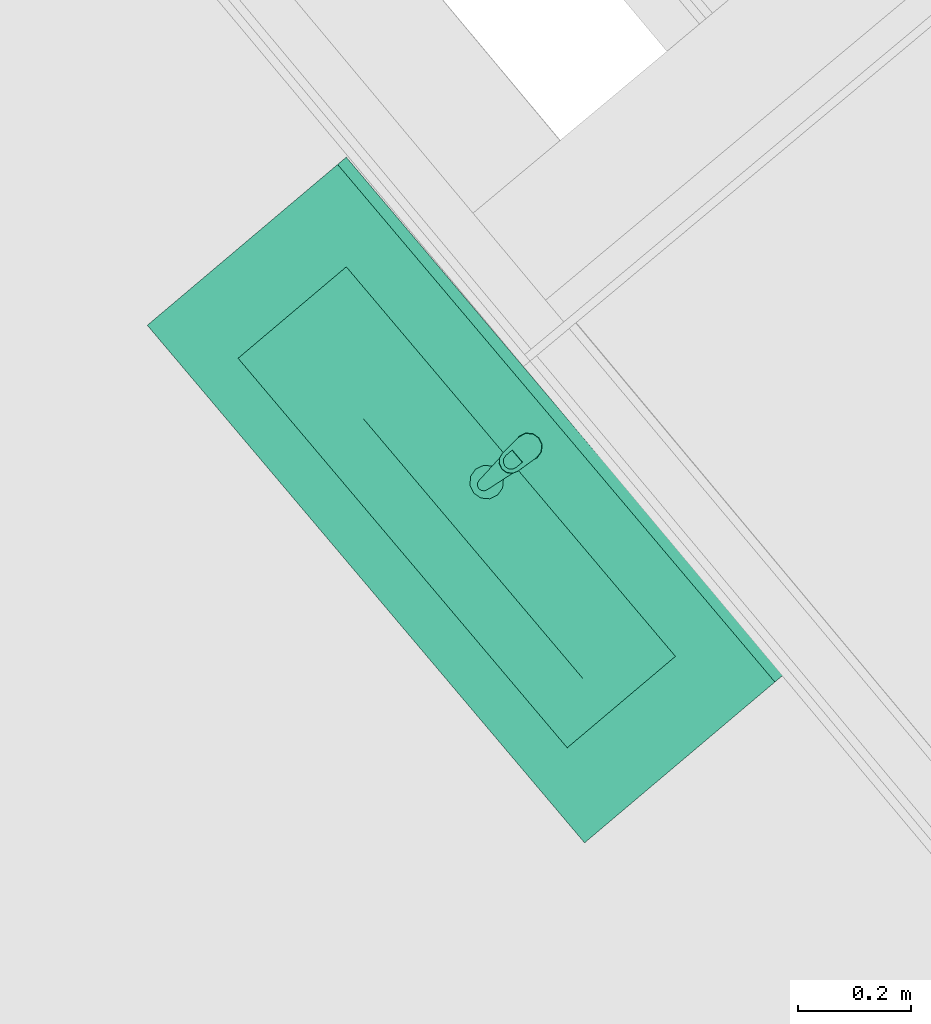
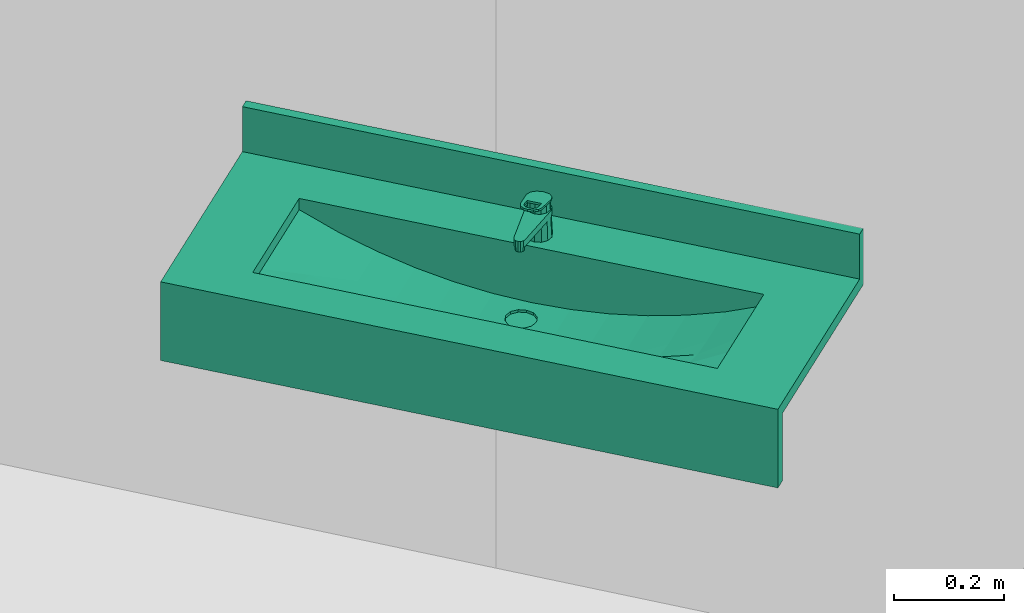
# One storey, part 61 of 67: 1 sanitary terminal.
"""IFC4 building model written with IfcOpenShell, lengths in metres."""

from ifc_helpers import new_model, entity, si_unit, converted_unit, derived_unit, direction, frame, origin_with_axes, place, context, subcontext, project, spatial, polygons, source, transform, mapped, type_object, element, save


model = new_model("IFC4")

# Units and contexts
model_context = context("Model", 3, precision=1e-05, world=origin_with_axes(), true_north=direction((0.0, 1.0)))
body_context = subcontext(model_context, "Body", "Model", "MODEL_VIEW")
ifc_project = project(units=[si_unit("LENGTHUNIT", "METRE"), si_unit("AREAUNIT", "SQUARE_METRE"), si_unit("VOLUMEUNIT", "CUBIC_METRE"), converted_unit("PLANEANGLEUNIT", "DEGREE", entity("IfcPlaneAngleMeasure", 0.0174532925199), si_unit("PLANEANGLEUNIT", "RADIAN"), dimensions=[0, 0, 0, 0, 0, 0, 0]), converted_unit("TIMEUNIT", "Year", entity("IfcTimeMeasure", 31556926.0), si_unit("TIMEUNIT", "SECOND"), dimensions=[0, 0, 1, 0, 0, 0, 0]), si_unit("MASSUNIT", "GRAM", prefix="KILO"), si_unit("THERMODYNAMICTEMPERATUREUNIT", "DEGREE_CELSIUS"), si_unit("LUMINOUSINTENSITYUNIT", "LUMEN"), si_unit("ENERGYUNIT", "JOULE", prefix="MEGA"), derived_unit("THERMALCONDUCTANCEUNIT", [(si_unit("POWERUNIT", "WATT"), 1), (si_unit("LENGTHUNIT", "METRE"), -1), (si_unit("THERMODYNAMICTEMPERATUREUNIT", "KELVIN"), -1)]), derived_unit("SPECIFICHEATCAPACITYUNIT", [(si_unit("ENERGYUNIT", "JOULE"), 1), (si_unit("MASSUNIT", "GRAM", prefix="KILO"), -1), (si_unit("THERMODYNAMICTEMPERATUREUNIT", "KELVIN"), -1)]), derived_unit("MASSDENSITYUNIT", [(si_unit("MASSUNIT", "GRAM", prefix="KILO"), 1), (si_unit("VOLUMEUNIT", "CUBIC_METRE"), -1)])], contexts=[model_context])

# Site, building, storey
site_placement = place(None, frame((-0.00153261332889, -0.00661245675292, 0.0), z_axis=(0.0, 0.0, 1.0), x_axis=(1.0, 0.0, 0.0)))
site = spatial("IfcSite", under=ifc_project, at=site_placement, Name="Site", CompositionType="ELEMENT")
building_placement = place(site_placement, origin_with_axes())
building = spatial("IfcBuilding", under=site, at=building_placement, Name="Building", CompositionType="ELEMENT")
storey_placement = place(building_placement, frame((0.0, 0.0, -0.22), z_axis=(0.0, 0.0, 1.0), x_axis=(1.0, 0.0, 0.0)))
storey = spatial("IfcBuildingStorey", under=building, at=storey_placement, Name="EG", CompositionType="ELEMENT", Elevation=-0.22)

# Sanitary terminal
sanitary_terminal_type = type_object("IfcSanitaryTerminalType", Name="Waschbecken mehrfach 26", PredefinedType="NOTDEFINED")
shared_shape = source(origin_with_axes(), body_context, "Body", "Tessellation", [
    polygons([(-0.597906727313, 0.0, 0.875), (0.597906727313, 0.0, 0.875), (0.597906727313, -0.459810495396, 0.875), (-0.597906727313, -0.459810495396, 0.875), (-0.45, -0.374905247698, 0.875), (0.45, -0.374905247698, 0.875), (0.45, -0.124905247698, 0.875), (-0.45, -0.124905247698, 0.875), (-0.597906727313, 0.0, 0.9), (0.597906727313, 0.0, 0.9), (0.597906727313, -0.459810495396, 0.9), (-0.597906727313, -0.459810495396, 0.9), (-0.45, -0.374905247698, 0.9), (0.45, -0.374905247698, 0.9), (0.45, -0.124905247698, 0.9), (-0.45, -0.124905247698, 0.9)], [[[1, 2, 3, 4], [5, 6, 7, 8]], [[1, 9, 10, 2]], [[2, 10, 11, 3]], [[3, 11, 12, 4]], [[4, 12, 9, 1]], [[13, 14, 6, 5]], [[14, 15, 7, 6]], [[15, 16, 8, 7]], [[16, 13, 5, 8]], [[11, 10, 9, 12], [13, 16, 15, 14]]], closed=True),
    polygons([(-0.597906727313, -0.02, 0.9), (0.597906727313, -0.02, 0.9), (0.597906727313, -0.02, 1.0), (-0.597906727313, -0.02, 1.0), (-0.597906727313, 0.0, 0.9), (0.597906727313, 0.0, 0.9), (0.597906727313, 0.0, 1.0), (-0.597906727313, 0.0, 1.0)], [[[1, 2, 3, 4]], [[1, 5, 6, 2]], [[2, 6, 7, 3]], [[4, 3, 7, 8]], [[5, 1, 4, 8]], [[6, 5, 8, 7]]], closed=True),
    polygons([(-0.597906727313, -0.459810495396, 0.725), (0.597906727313, -0.459810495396, 0.725), (0.597906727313, -0.459810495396, 0.875), (-0.597906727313, -0.459810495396, 0.875), (-0.597906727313, -0.434810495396, 0.725), (0.597906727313, -0.434810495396, 0.725), (0.597906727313, -0.434810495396, 0.875), (-0.597906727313, -0.434810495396, 0.875)], [[[1, 2, 3, 4]], [[1, 5, 6, 2]], [[2, 6, 7, 3]], [[4, 3, 7, 8]], [[5, 1, 4, 8]], [[6, 5, 8, 7]]], closed=True),
    polygons([(0.0, -0.210896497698, 0.775), (-0.015, -0.206877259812, 0.775530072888), (-0.0259807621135, -0.195896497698, 0.775918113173), (-0.03, -0.180896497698, 0.776060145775), (-0.0283946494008, -0.174905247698, 0.776003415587), (-0.075, -0.174905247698, 0.777650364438), (-0.075, -0.224905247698, 0.777650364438), (0.0, -0.224905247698, 0.775), (-0.015, -0.154915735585, 0.775530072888), (0.0, -0.150896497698, 0.775), (0.0, -0.124905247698, 0.775), (-0.075, -0.124905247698, 0.777650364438), (-0.0259807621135, -0.165896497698, 0.775918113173), (-0.15, -0.174905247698, 0.785641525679), (-0.15, -0.224905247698, 0.785641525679), (-0.075, -0.274905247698, 0.787304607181), (0.075, -0.174905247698, 0.777650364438), (0.0283946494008, -0.174905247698, 0.776003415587), (0.03, -0.180896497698, 0.776060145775), (0.0259807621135, -0.195896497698, 0.775918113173), (0.015, -0.206877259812, 0.775530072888), (0.075, -0.224905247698, 0.777650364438), (0.015, -0.154915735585, 0.775530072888), (0.0259807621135, -0.165896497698, 0.775918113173), (0.075, -0.124905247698, 0.777650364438), (0.225, -0.124905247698, 0.799096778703), (0.3, -0.124905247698, 0.818232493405), (0.375, -0.124905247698, 0.843376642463), (0.45, -0.124905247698, 0.875), (-0.45, -0.124905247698, 0.875), (-0.375, -0.124905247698, 0.843376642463), (-0.3, -0.124905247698, 0.818232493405), (-0.225, -0.124905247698, 0.799096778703), (-0.15, -0.124905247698, 0.785641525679), (0.15, -0.124905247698, 0.785641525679), (-0.225, -0.174905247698, 0.799096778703), (-0.225, -0.224905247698, 0.799096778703), (-0.15, -0.274905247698, 0.794561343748), (0.0, -0.274905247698, 0.784895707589), (0.15, -0.224905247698, 0.785641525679), (0.15, -0.174905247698, 0.785641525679), (0.3, -0.174905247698, 0.818232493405), (0.225, -0.174905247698, 0.799096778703), (0.375, -0.174905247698, 0.843376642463), (0.45, -0.174905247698, 0.875), (-0.375, -0.174905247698, 0.843376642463), (-0.45, -0.174905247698, 0.875), (-0.3, -0.174905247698, 0.818232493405), (-0.3, -0.224905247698, 0.818232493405), (-0.225, -0.274905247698, 0.80675793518), (-0.075, -0.324905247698, 0.828130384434), (-0.15, -0.324905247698, 0.832107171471), (0.075, -0.274905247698, 0.787304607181), (0.225, -0.224905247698, 0.799096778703), (0.3, -0.224905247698, 0.818232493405), (0.375, -0.224905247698, 0.843376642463), (0.45, -0.224905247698, 0.875), (0.45, -0.274905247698, 0.875), (0.45, -0.324905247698, 0.875), (0.45, -0.374905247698, 0.875), (-0.45, -0.274905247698, 0.875), (-0.45, -0.224905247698, 0.875), (-0.45, -0.374905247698, 0.875), (-0.45, -0.324905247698, 0.875), (-0.375, -0.224905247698, 0.843376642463), (-0.3, -0.274905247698, 0.824054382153), (-0.225, -0.324905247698, 0.838751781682), (0.0, -0.324905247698, 0.826806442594), (0.15, -0.274905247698, 0.794561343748), (0.225, -0.274905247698, 0.80675793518), (0.3, -0.274905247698, 0.824054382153), (0.375, -0.274905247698, 0.846689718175), (0.375, -0.324905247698, 0.860156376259), (0.375, -0.374905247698, 0.875), (-0.375, -0.324905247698, 0.860156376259), (-0.375, -0.274905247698, 0.846689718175), (-0.3, -0.324905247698, 0.848089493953), (-0.075, -0.374905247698, 0.875), (-0.15, -0.374905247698, 0.875), (-0.225, -0.374905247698, 0.875), (0.075, -0.324905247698, 0.828130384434), (-0.3, -0.374905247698, 0.875), (-0.375, -0.374905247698, 0.875), (0.3, -0.374905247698, 0.875), (0.225, -0.374905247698, 0.875), (0.15, -0.374905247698, 0.875), (0.075, -0.374905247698, 0.875), (0.0, -0.374905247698, 0.875), (0.15, -0.324905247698, 0.832107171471), (0.225, -0.324905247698, 0.838751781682), (0.3, -0.324905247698, 0.848089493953)], [[[1, 2, 3, 4, 5, 6, 7, 8]], [[9, 10, 11, 12, 6, 5, 13]], [[7, 6, 14, 15]], [[16, 8, 7]], [[17, 18, 19, 20, 21, 1, 8, 22]], [[10, 23, 24, 18, 17, 25, 11]], [[26, 27, 28, 29, 30, 31, 32, 33, 34, 12, 11, 25, 35]], [[6, 12, 34, 14]], [[15, 14, 36, 37]], [[38, 7, 15]], [[16, 39, 8]], [[38, 16, 7]], [[39, 22, 8]], [[40, 41, 17, 22]], [[41, 35, 25, 17]], [[42, 27, 26, 43]], [[44, 28, 27, 42]], [[45, 29, 28, 44]], [[46, 31, 30, 47]], [[48, 32, 31, 46]], [[36, 33, 32, 48]], [[14, 34, 33, 36]], [[43, 26, 35, 41]], [[37, 36, 48, 49]], [[50, 15, 37]], [[50, 38, 15]], [[51, 39, 16]], [[52, 16, 38]], [[39, 53, 22]], [[54, 43, 41, 40]], [[53, 40, 22]], [[55, 42, 43, 54]], [[56, 44, 42, 55]], [[57, 58, 59, 60, 29, 45]], [[57, 45, 44, 56]], [[61, 62, 47, 30, 63, 64]], [[65, 46, 47, 62]], [[49, 48, 46, 65]], [[66, 37, 49]], [[66, 50, 37]], [[67, 38, 50]], [[51, 68, 39]], [[52, 51, 16]], [[67, 52, 38]], [[68, 53, 39]], [[69, 54, 40]], [[53, 69, 40]], [[70, 55, 54]], [[71, 56, 55]], [[72, 58, 57]], [[73, 59, 58]], [[74, 60, 59]], [[72, 57, 56]], [[61, 65, 62]], [[63, 75, 64]], [[64, 76, 61]], [[76, 49, 65]], [[76, 66, 49]], [[77, 50, 66]], [[77, 67, 50]], [[78, 68, 51]], [[79, 51, 52]], [[80, 52, 67]], [[68, 81, 53]], [[69, 70, 54]], [[81, 69, 53]], [[70, 71, 55]], [[71, 72, 56]], [[73, 58, 72]], [[74, 59, 73]], [[80, 82, 83, 63, 60, 74, 84, 85, 86, 87, 88, 78, 79]], [[61, 76, 65]], [[63, 83, 75]], [[64, 75, 76]], [[75, 66, 76]], [[75, 77, 66]], [[82, 67, 77]], [[78, 88, 68]], [[79, 78, 51]], [[80, 79, 52]], [[82, 80, 67]], [[88, 81, 68]], [[89, 70, 69]], [[81, 89, 69]], [[90, 71, 70]], [[91, 72, 71]], [[91, 73, 72]], [[84, 74, 73]], [[83, 82, 77]], [[85, 84, 91]], [[86, 85, 90]], [[87, 86, 89]], [[88, 87, 81]], [[83, 77, 75]], [[89, 90, 70]], [[87, 89, 81]], [[90, 91, 71]], [[84, 73, 91]], [[85, 91, 90]], [[86, 90, 89]]], closed=False),
    polygons([(0.03, -0.180896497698, 0.776060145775), (0.0259807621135, -0.195896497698, 0.775918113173), (0.0259807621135, -0.195896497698, 0.77), (0.03, -0.180896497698, 0.77), (0.015, -0.206877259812, 0.775530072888), (0.015, -0.206877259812, 0.77), (0.0, -0.150896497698, 0.77), (0.015, -0.154915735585, 0.77), (0.0259807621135, -0.165896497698, 0.77), (0.0, -0.210896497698, 0.77), (-0.015, -0.206877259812, 0.77), (-0.0259807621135, -0.195896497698, 0.77), (-0.03, -0.180896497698, 0.77), (-0.0259807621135, -0.165896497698, 0.77), (-0.015, -0.154915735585, 0.77), (0.0259807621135, -0.165896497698, 0.775918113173), (0.0, -0.210896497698, 0.775), (0.0, -0.150896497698, 0.775), (0.015, -0.154915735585, 0.775530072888), (-0.015, -0.206877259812, 0.775530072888), (-0.0259807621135, -0.195896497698, 0.775918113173), (-0.03, -0.180896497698, 0.776060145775), (-0.0259807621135, -0.165896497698, 0.775918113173), (-0.015, -0.154915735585, 0.775530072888)], [[[1, 2, 3, 4]], [[2, 5, 6, 3]], [[7, 8, 9, 4, 3, 6, 10, 11, 12, 13, 14, 15]], [[16, 1, 4, 9]], [[5, 17, 10, 6]], [[18, 19, 8, 7]], [[19, 16, 9, 8]], [[17, 20, 11, 10]], [[20, 21, 12, 11]], [[21, 22, 13, 12]], [[22, 23, 14, 13]], [[23, 24, 15, 14]], [[24, 18, 7, 15]]], closed=False),
    polygons([(0.0125, -0.0632546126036, 0.9), (0.0, -0.0599052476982, 0.9), (0.0, -0.0637033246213, 0.975961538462), (0.0105873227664, -0.0665674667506, 0.976507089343), (0.0216506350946, -0.0724052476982, 0.9), (0.025, -0.0849052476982, 0.9), (0.0216506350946, -0.0974052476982, 0.9), (0.0125, -0.106555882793, 0.9), (0.0, -0.109905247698, 0.9), (-0.0125, -0.106555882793, 0.9), (-0.0216506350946, -0.0974052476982, 0.9), (-0.025, -0.0849052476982, 0.9), (-0.0216506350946, -0.0724052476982, 0.9), (-0.0125, -0.0632546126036, 0.9), (-0.0105873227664, -0.0665674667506, 0.976507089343), (-0.0182735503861, -0.0743550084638, 0.977990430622), (-0.021, -0.0849052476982, 0.98), (-0.0181003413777, -0.095355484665, 0.981990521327), (-0.0104141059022, -0.102943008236, 0.983435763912), (0.0, -0.105707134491, 0.983962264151), (0.0104141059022, -0.102943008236, 0.983435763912), (0.0181003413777, -0.095355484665, 0.981990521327), (0.021, -0.0849052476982, 0.98), (0.0182735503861, -0.0743550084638, 0.977990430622)], [[[1, 2, 3, 4]], [[1, 5, 6, 7, 8, 9, 10, 11, 12, 13, 14, 2]], [[2, 14, 15, 3]], [[4, 3, 15, 16, 17, 18, 19, 20, 21, 22, 23, 24]], [[5, 1, 4, 24]], [[6, 5, 24, 23]], [[7, 6, 23, 22]], [[8, 7, 22, 21]], [[9, 8, 21, 20]], [[10, 9, 20, 19]], [[11, 10, 19, 18]], [[12, 11, 18, 17]], [[13, 12, 17, 16]], [[14, 13, 16, 15]]], closed=True),
    polygons([(0.009, -0.187905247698, 0.935), (0.00779422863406, -0.183405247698, 0.935), (0.00779422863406, -0.183405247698, 0.945), (0.009, -0.187905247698, 0.945), (0.00779422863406, -0.192405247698, 0.935), (0.0045, -0.195699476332, 0.935), (0.0, -0.196905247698, 0.935), (-0.0045, -0.195699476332, 0.935), (-0.00779422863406, -0.192405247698, 0.935), (-0.009, -0.187905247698, 0.935), (-0.00779422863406, -0.183405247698, 0.935), (-0.0045, -0.180111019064, 0.935), (0.0, -0.178905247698, 0.935), (0.0045, -0.180111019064, 0.935), (0.0045, -0.180111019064, 0.945), (0.0, -0.178905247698, 0.945), (-0.0045, -0.180111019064, 0.945), (-0.00779422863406, -0.183405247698, 0.945), (-0.009, -0.187905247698, 0.945), (-0.00779422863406, -0.192405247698, 0.945), (-0.0045, -0.195699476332, 0.945), (0.0, -0.196905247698, 0.945), (0.0045, -0.195699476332, 0.945), (0.00779422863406, -0.192405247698, 0.945)], [[[1, 2, 3, 4]], [[1, 5, 6, 7, 8, 9, 10, 11, 12, 13, 14, 2]], [[2, 14, 15, 3]], [[4, 3, 15, 16, 17, 18, 19, 20, 21, 22, 23, 24]], [[5, 1, 4, 24]], [[6, 5, 24, 23]], [[7, 6, 23, 22]], [[8, 7, 22, 21]], [[9, 8, 21, 20]], [[10, 9, 20, 19]], [[11, 10, 19, 18]], [[12, 11, 18, 17]], [[13, 12, 17, 16]], [[14, 13, 16, 15]]], closed=True),
    polygons([(-0.0128717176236, -0.0646489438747, 0.96), (-0.021727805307, -0.0747120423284, 0.96), (-0.0238054, -0.0879551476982, 0.96), (-0.010911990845, -0.189293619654, 0.96), (-0.00902887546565, -0.194188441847, 0.96), (-0.00509332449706, -0.197654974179, 0.96), (3.62679860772e-08, -0.198905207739, 0.96), (0.00509338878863, -0.197654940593, 0.96), (0.00902891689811, -0.194188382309, 0.96), (0.010912, -0.189293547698, 0.96), (0.0238053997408, -0.0879551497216, 0.96), (0.0217278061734, -0.0747120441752, 0.96), (0.0128717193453, -0.0646489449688, 0.96), (1.01998896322e-09, -0.0609052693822, 0.96), (0.011, -0.0658526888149, 0.96), (0.0190525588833, -0.0739052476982, 0.96), (0.022, -0.0849052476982, 0.96), (0.0190525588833, -0.0959052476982, 0.96), (0.011, -0.103957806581, 0.96), (0.0, -0.106905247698, 0.96), (-0.011, -0.103957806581, 0.96), (-0.0190525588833, -0.0959052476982, 0.96), (-0.022, -0.0849052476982, 0.96), (-0.0190525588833, -0.0739052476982, 0.96), (-0.011, -0.0658526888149, 0.96), (0.0, -0.0629052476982, 0.96), (-0.021727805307, -0.0747120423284, 0.945), (-0.0128717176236, -0.0646489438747, 0.945), (-0.0238054, -0.0879551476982, 0.945), (-0.010911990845, -0.189293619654, 0.945), (-0.00902887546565, -0.194188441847, 0.945), (-0.00509332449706, -0.197654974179, 0.945), (3.62679860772e-08, -0.198905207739, 0.945), (0.00509338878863, -0.197654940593, 0.945), (0.00902891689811, -0.194188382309, 0.945), (0.010912, -0.189293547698, 0.945), (0.0238053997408, -0.0879551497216, 0.945), (0.0217278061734, -0.0747120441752, 0.945), (0.0128717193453, -0.0646489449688, 0.945), (1.01998896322e-09, -0.0609052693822, 0.945), (0.011375, -0.0652031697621, 0.945), (0.0197020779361, -0.0735302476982, 0.945), (0.02275, -0.0849052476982, 0.945), (0.0197020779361, -0.0962802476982, 0.945), (0.011375, -0.104607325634, 0.945), (0.0, -0.107655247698, 0.945), (-0.011375, -0.104607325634, 0.945), (-0.0197020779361, -0.0962802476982, 0.945), (-0.02275, -0.0849052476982, 0.945), (-0.0197020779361, -0.0735302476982, 0.945), (-0.011375, -0.0652031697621, 0.945), (0.0, -0.0621552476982, 0.945)], [[[1, 2, 3, 4, 5, 6, 7, 8, 9, 10, 11, 12, 13, 14], [15, 16, 17, 18, 19, 20, 21, 22, 23, 24, 25, 26]], [[27, 2, 1, 28]], [[29, 3, 2, 27]], [[30, 4, 3, 29]], [[31, 5, 4, 30]], [[32, 6, 5, 31]], [[33, 7, 6, 32]], [[34, 8, 7, 33]], [[35, 9, 8, 34]], [[36, 10, 9, 35]], [[37, 11, 10, 36]], [[38, 12, 11, 37]], [[39, 13, 12, 38]], [[40, 14, 13, 39]], [[28, 1, 14, 40]], [[41, 42, 16, 15]], [[42, 43, 17, 16]], [[43, 44, 18, 17]], [[44, 45, 19, 18]], [[45, 46, 20, 19]], [[21, 20, 46, 47]], [[22, 21, 47, 48]], [[23, 22, 48, 49]], [[24, 23, 49, 50]], [[25, 24, 50, 51]], [[51, 52, 26, 25]], [[52, 41, 15, 26]], [[33, 32, 31, 30, 29, 27, 28, 40, 39, 38, 37, 36, 35, 34], [45, 44, 43, 42, 41, 52, 51, 50, 49, 48, 47, 46]]], closed=True),
    polygons([(0.023893, -0.0865978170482, 0.980322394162), (0.0212964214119, -0.0741305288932, 0.977947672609), (0.0212964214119, -0.0733820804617, 0.981877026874), (0.023893, -0.0858493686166, 0.984251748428), (0.0209459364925, -0.126741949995, 0.987968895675), (0.0176631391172, -0.13641961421, 0.989812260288), (0.0100614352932, -0.14336899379, 0.991135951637), (-4.42652908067e-07, -0.145890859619, 0.991616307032), (-0.0100622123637, -0.143368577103, 0.991135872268), (-0.0176636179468, -0.136418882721, 0.989812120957), (-0.020946, -0.126741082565, 0.987968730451), (-0.023893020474, -0.0865975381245, 0.980322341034), (-0.0212962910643, -0.0741302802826, 0.977947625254), (-0.0124716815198, -0.0648140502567, 0.976173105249), (1.42337785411e-07, -0.0613732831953, 0.975517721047), (0.0124719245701, -0.0648141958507, 0.976173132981), (0.014, -0.110446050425, 0.984864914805), (-0.014, -0.110446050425, 0.984864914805), (-0.014, -0.125261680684, 0.987686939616), (-0.012124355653, -0.132138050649, 0.988996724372), (-0.007, -0.137171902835, 0.989955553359), (0.0, -0.139014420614, 0.990306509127), (0.007, -0.137171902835, 0.989955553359), (0.012124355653, -0.132138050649, 0.988996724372), (0.014, -0.125261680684, 0.987686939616), (0.0124719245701, -0.0640657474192, 0.980102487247), (1.42337785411e-07, -0.0606248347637, 0.979447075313), (-0.0124716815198, -0.0640656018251, 0.980102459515), (-0.0212962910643, -0.073381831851, 0.98187697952), (-0.023893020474, -0.085849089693, 0.984251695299), (-0.020946, -0.125992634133, 0.991898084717), (-0.0176636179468, -0.13567043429, 0.993741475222), (-0.0100622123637, -0.142620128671, 0.995065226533), (-4.42652908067e-07, -0.145142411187, 0.995545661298), (0.0100614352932, -0.142620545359, 0.995065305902), (0.0176631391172, -0.135671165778, 0.993741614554), (0.0209459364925, -0.125993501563, 0.991898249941), (0.014, -0.109697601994, 0.988794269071), (0.014, -0.124513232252, 0.991616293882), (0.012124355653, -0.131389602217, 0.992926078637), (0.007, -0.136423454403, 0.993884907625), (0.0, -0.138265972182, 0.994235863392), (-0.007, -0.136423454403, 0.993884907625), (-0.012124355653, -0.131389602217, 0.992926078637), (-0.014, -0.124513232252, 0.991616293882), (-0.014, -0.109697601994, 0.988794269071)], [[[1, 2, 3, 4]], [[1, 5, 6, 7, 8, 9, 10, 11, 12, 13, 14, 15, 16, 2], [17, 18, 19, 20, 21, 22, 23, 24, 25]], [[2, 16, 26, 3]], [[4, 3, 26, 27, 28, 29, 30, 31, 32, 33, 34, 35, 36, 37], [38, 39, 40, 41, 42, 43, 44, 45, 46]], [[5, 1, 4, 37]], [[6, 5, 37, 36]], [[7, 6, 36, 35]], [[8, 7, 35, 34]], [[9, 8, 34, 33]], [[10, 9, 33, 32]], [[11, 10, 32, 31]], [[12, 11, 31, 30]], [[13, 12, 30, 29]], [[14, 13, 29, 28]], [[15, 14, 28, 27]], [[16, 15, 27, 26]], [[18, 17, 38, 46]], [[19, 18, 46, 45]], [[20, 19, 45, 44]], [[21, 20, 44, 43]], [[22, 21, 43, 42]], [[23, 22, 42, 41]], [[24, 23, 41, 40]], [[25, 24, 40, 39]], [[17, 25, 39, 38]]], closed=True),
])
sanitary_terminal_placement = place(storey_placement, frame((1.68758457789, 20.7054443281, 0.145), z_axis=(0.0, 0.0, 1.0), x_axis=(0.64539838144, -0.763846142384, 0.0)))
element("IfcSanitaryTerminal", 1, at=sanitary_terminal_placement, inside=storey, type_object=sanitary_terminal_type, Name="Objekt-0009", PredefinedType="NOTDEFINED", context=body_context, shape_type="MappedRepresentation", body=[
    mapped(shared_shape, transform((0.0, 0.0, 0.0))),
])

save(model, "model.ifc")
